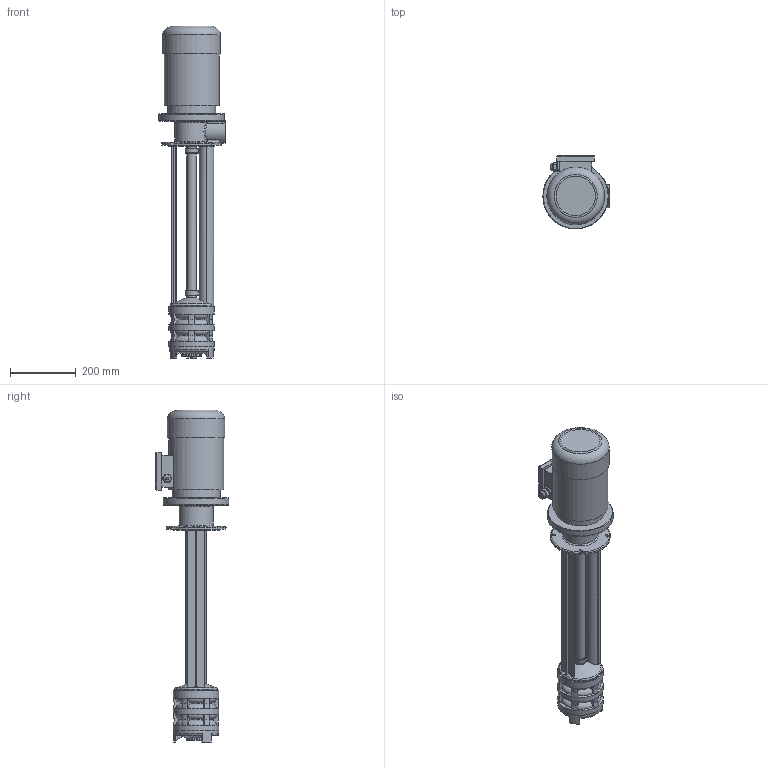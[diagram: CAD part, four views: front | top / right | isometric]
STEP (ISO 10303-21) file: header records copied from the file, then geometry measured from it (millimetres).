
FILE_DESCRIPTION(/* description */ ('Unknown'),/* implementation_level */ '2;1');
FILE_NAME(/* name */ 'gp3-650',/* time_stamp */ '2025-06-04T09:25:19+03:00',/* author */ ('Unknown'),/* organization */ ('Unknown'),/* preprocessor_version */ 'ST-DEVELOPER v16.7',/* originating_system */ 'DEX',/* authorisation */ $);
FILE_SCHEMA (('AUTOMOTIVE_DESIGN {1 0 10303 214 3 1 1}'));
Length unit declared in the file: millimetre
Products named in the file (1): gp3-650
Bounding box: 202 x 225 x 1013.33 mm (x, y, z)
Volume: 11814457.2 mm3; surface area: 630004.7 mm2
Topology: 1 solids, 1 shells, 385 faces, 994 edges, 642 vertices
Faces by surface type: plane 134, bspline 84, cylinder 79, cone 47, torus 41
Full cylindrical faces by diameter (mm): 17 x1, 21.5 x1, 29 x3, 33 x2, 35 x2, 39 x2, 40.5 x2, 45 x1, 47 x1, 60 x1, 137 x1, 139 x3, 140 x1, 168.001 x1, 176 x1, 200 x1
Entity records: 14339 total; most frequent: CARTESIAN_POINT 5577, ORIENTED_EDGE 1864, DIRECTION 1645, EDGE_CURVE 932, VERTEX_POINT 632, AXIS2_PLACEMENT_3D 618, EDGE_LOOP 472, FACE_BOUND 472
